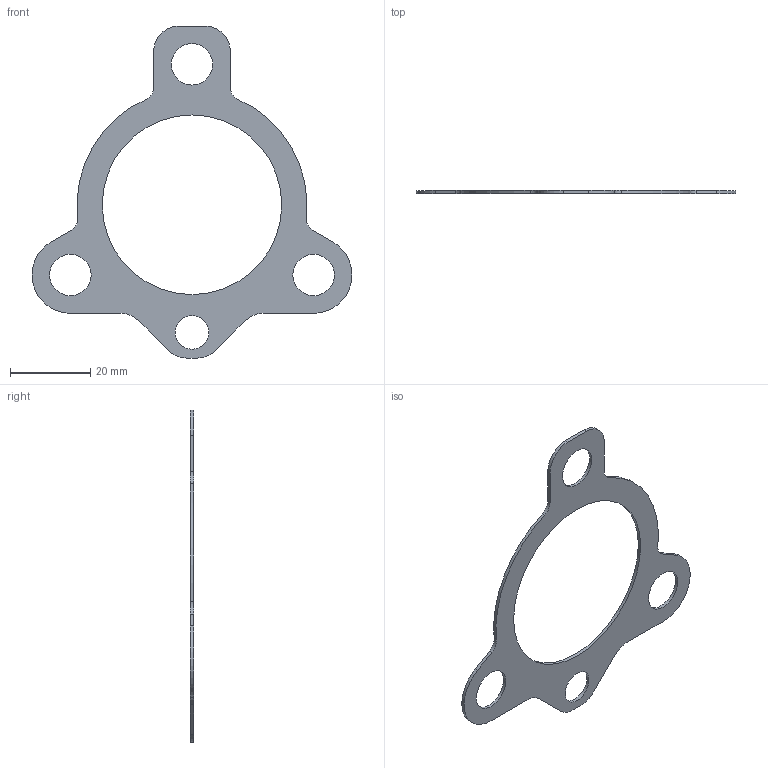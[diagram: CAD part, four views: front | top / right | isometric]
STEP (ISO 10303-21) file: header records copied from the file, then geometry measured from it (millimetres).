
FILE_DESCRIPTION(/* description */ (''),/* implementation_level */ '2;1');
FILE_NAME(/* name */ 'E:/hidden/Engineering Projects/Leslie Controls SuperTyfon/CAD/Components/24311 Gasket.step',/* time_stamp */ '2022-08-18T19:34:47+10:00',/* author */ (''),/* organization */ (''),/* preprocessor_version */ 'ST-DEVELOPER v19',/* originating_system */ 'Autodesk Translation Framework v11.7.0.108',/* authorisation */ '');
FILE_SCHEMA (('AUTOMOTIVE_DESIGN { 1 0 10303 214 3 1 1 }'));
Length unit declared in the file: inch
Products named in the file (1): 24311 Gasket
Bounding box: 79.54 x 0.79 x 82.55 mm (x, y, z)
Volume: 1446.5 mm3; surface area: 4062 mm2
Topology: 1 solids, 1 shells, 31 faces, 87 edges, 58 vertices
Faces by surface type: cylinder 19, plane 12
Full cylindrical faces by diameter (mm): 8.334 x1, 10.319 x3, 44.648 x1
Entity records: 1074 total; most frequent: DIRECTION 189, CARTESIAN_POINT 177, ORIENTED_EDGE 174, EDGE_CURVE 87, AXIS2_PLACEMENT_3D 70, VERTEX_POINT 58, LINE 49, VECTOR 49
